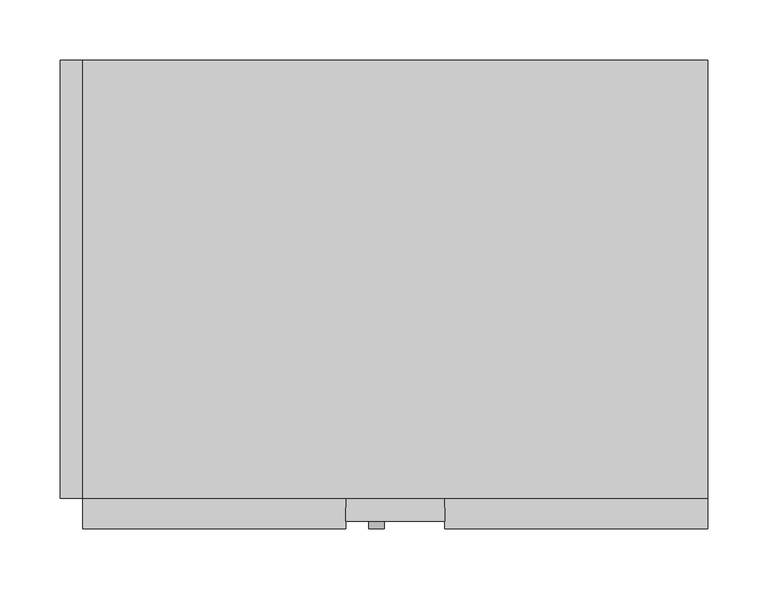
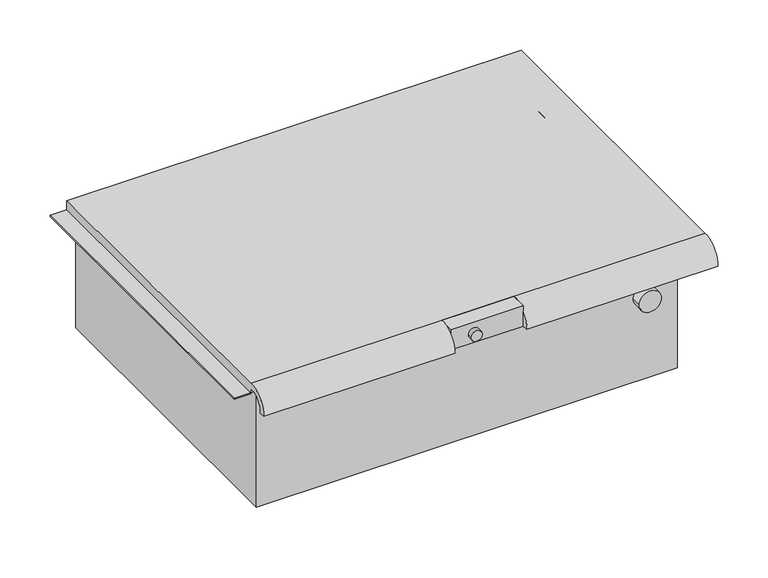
"""IFC4 building model written with IfcOpenShell, lengths in millimetres: furniture geometry."""

from ifc_helpers import new_model, si_unit, point, frame, frame_2d, origin, place, context, project, spatial, polyline, circle_curve, trimmed, segment, composite_curve, outline, extrude, faceted_brep, source, transform, mapped, element, save
from ifc_brep_helpers import plane_surface, cylinder_surface, revolved_surface, advanced_brep


def furniture_43992efd(model_context):
    return source(origin(), model_context, "Body", "SolidModel", [
        advanced_brep(
        [(289.147512, -169.8625, 1784.3500004), (289.147512, 195.2625, 1784.3500004), (289.147512, 195.2625, 1795.4625004), (289.147512, -169.8625, 1795.4625004), (289.147512, -195.297482, 1770.8510272), (289.147512, -188.9125, 1770.8510272), (289.147512, -169.8625, 1789.1125004), (-231.5525001, -169.8625, 1784.3500004), (-231.5525001, -169.8625, 1789.1125004), (-231.5525001, -188.9125, 1770.8510272), (-231.5525001, -195.297482, 1770.8510272), (-231.5525001, -169.8625, 1795.4625004), (-231.5525001, 195.2625, 1795.4625004), (-231.5525001, 195.2625, 1784.3500004), (70.072506, -169.8625, 1789.1125004), (70.072506, -169.8625, 1795.4625004), (-12.477494, -169.8625, 1795.4625004), (-12.477494, -169.8625, 1789.1125004), (70.072506, -195.297482, 1770.8510272), (70.072506, -188.9125, 1770.8510272), (-12.477494, -188.9125, 1770.8510272), (-12.477494, -195.297482, 1770.8510272)],
        [
            (0, 1),
            (1, 2),
            (2, 3),
            (3, 4, circle_curve(frame((289.147512, -172.4601678, 1772.6983276), z_axis=(1.0, 0.0, 0.0), x_axis=(0.0, 1.0, 0.0)), 22.9119061)),
            (4, 5),
            (5, 6, circle_curve(frame((289.147512, -172.3404634, 1772.6304376), z_axis=(-1.0, 0.0, 0.0), x_axis=(0.0, 1.0, 0.0)), 16.6672942)),
            (6, 0),
            (7, 8),
            (8, 9, circle_curve(frame((-231.5525001, -172.3404634, 1772.6304376), z_axis=(1.0, 0.0, 0.0), x_axis=(0.0, 1.0, 0.0)), 16.6672942)),
            (9, 10),
            (10, 11, circle_curve(frame((-231.5525001, -172.4601678, 1772.6983276), z_axis=(-1.0, 0.0, 0.0), x_axis=(0.0, 1.0, 0.0)), 22.9119061)),
            (11, 12),
            (12, 13),
            (13, 7),
            (6, 14),
            (14, 15),
            (15, 16),
            (16, 17),
            (17, 8),
            (7, 0),
            (13, 1),
            (12, 2),
            (11, 16),
            (15, 3),
            (4, 18),
            (18, 19),
            (19, 5),
            (9, 20),
            (20, 21),
            (21, 10),
            (19, 14, circle_curve(frame((70.072506, -172.3404634, 1772.6304376), z_axis=(-1.0, 0.0, 0.0), x_axis=(0.0, 1.0, 0.0)), 16.6672942)),
            (17, 20, circle_curve(frame((-12.477494, -172.3404634, 1772.6304376), z_axis=(1.0, 0.0, 0.0), x_axis=(0.0, 1.0, 0.0)), 16.6672942)),
            (15, 18, circle_curve(frame((70.072506, -172.4601678, 1772.6983276), z_axis=(1.0, 0.0, 0.0), x_axis=(0.0, 1.0, 0.0)), 22.9119061)),
            (21, 16, circle_curve(frame((-12.477494, -172.4601678, 1772.6983276), z_axis=(-1.0, 0.0, 0.0), x_axis=(0.0, 1.0, 0.0)), 22.9119061)),
        ],
        [
            plane_surface(frame((289.147512, -169.8625, 1784.3500004), z_axis=(1.0, 0.0, 0.0), x_axis=(0.0, 1.0, 0.0))),
            plane_surface(frame((-231.5525001, -169.8625, 1784.3500004), z_axis=(-1.0, 0.0, 0.0), x_axis=(0.0, -1.0, 0.0))),
            plane_surface(frame((289.147512, -169.8625, 1789.1125004), z_axis=(0.0, -1.0, 0.0), x_axis=(-1.0, 0.0, 0.0))),
            plane_surface(frame((289.147512, -169.8625, 1784.3500004), z_axis=(0.0, 0.0, -1.0), x_axis=(-1.0, 0.0, 0.0))),
            plane_surface(frame((289.147512, 195.2625, 1784.3500004), z_axis=(0.0, 1.0, 0.0), x_axis=(-1.0, 0.0, 0.0))),
            plane_surface(frame((289.147512, 195.2625, 1795.4625004), z_axis=(0.0, 0.0, 1.0), x_axis=(-1.0, 0.0, 0.0))),
            plane_surface(frame((289.147512, -195.297482, 1770.8510272), z_axis=(0.0, 0.0, -1.0), x_axis=(-1.0, 0.0, 0.0))),
            revolved_surface(polyline([(70.072506, -155.67316920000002, 1772.6304376), (289.147512, -155.67316920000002, 1772.6304376)]), (-231.5525001, -172.3404634, 1772.6304376), (-1.0, 0.0, 0.0)),
            revolved_surface(polyline([(-231.5525001, -155.67316920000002, 1772.6304376), (-12.477494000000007, -155.67316920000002, 1772.6304376)]), (-231.5525001, -172.3404634, 1772.6304376), (-1.0, 0.0, 0.0)),
            cylinder_surface(frame((-231.5525001, -172.4601678, 1772.6983276), z_axis=(1.0, 0.0, 0.0), x_axis=(0.0, 1.0, 0.0)), 22.9119061),
            plane_surface(frame((70.072506, -195.297482, 1770.8510272), z_axis=(-1.0, 0.0, 0.0), x_axis=(0.0, 1.0, 0.0))),
            plane_surface(frame((-12.477494, -195.297482, 1770.8510272), z_axis=(1.0, 0.0, 0.0), x_axis=(0.0, -1.0, 0.0))),
        ],
        [
            (0, [[1, 2, 3, 4, 5, 6, 7]]),
            (1, [[8, 9, 10, 11, 12, 13, 14]]),
            (2, [[-7, 15, 16, 17, 18, 19, -8, 20]]),
            (3, [[-1, -20, -14, 21]]),
            (4, [[-2, -21, -13, 22]]),
            (5, [[-3, -22, -12, 23, -17, 24]]),
            (6, [[-5, 25, 26, 27]]),
            (6, [[-10, 28, 29, 30]]),
            (7, [[-6, -27, 31, -15]]),
            (8, [[-9, -19, 32, -28]]),
            (9, [[-4, -24, 33, -25]]),
            (9, [[-11, -30, 34, -23]]),
            (10, [[-16, -31, -26, -33]]),
            (11, [[-18, -34, -29, -32]]),
        ],
    ),
        extrude(outline(polyline([(70.072506, -188.9125), (-12.477494, -188.9125), (-12.477494, -169.8625), (70.072506, -169.8625), (70.072506, -188.9125)])), frame((0.0, 0.0, 1770.8510272), z_axis=(0.0, 0.0, 1.0), x_axis=(1.0, 0.0, 0.0)), (0.0, 0.0, 1.0), 24.6114732),
        extrude(outline(composite_curve([segment(trimmed(circle_curve(frame_2d((1782.7625, 12.922506)), 6.35), [point((1782.7625, 19.272506))], [point((1782.7625, 6.572506))], False, "CARTESIAN"), True, "CONTINUOUS"), segment(trimmed(circle_curve(frame_2d((1782.7625, 12.922506)), 6.35), [point((1782.7625, 6.572506))], [point((1782.7625, 19.272506))], False, "CARTESIAN"), True, "CONTINUOUS")], self_intersect=False)), frame((0.0, -195.2625, 0.0), z_axis=(0.0, 1.0, 0.0), x_axis=(0.0, 0.0, 1.0)), (0.0, 0.0, 1.0), 25.4),
        faceted_brep([(-225.2025001, -169.8625, 1643.0625004), (257.3974878, -169.8625, 1643.0625004), (257.3974878, -169.8625, 1795.4625004), (-225.2025001, -169.8625, 1795.4625004), (-225.2025001, 188.9125, 1643.0625004), (-225.2025001, 188.9125, 1795.4625004), (257.3974878, 188.9125, 1795.4625004), (257.3974878, 188.9125, 1643.0625004), (-218.8095642, 181.9275, 1795.4625004), (251.0474878, 181.9275, 1795.4625004), (251.0474878, -163.5125, 1795.4625004), (-218.8095642, -163.5125, 1795.4625004), (251.0474878, 181.9275, 1646.2375004), (-218.8095642, 181.9275, 1646.2375004), (-218.8095642, -163.5125, 1646.2375004), (251.0474878, -163.5125, 1646.2375004)], [[[0, 1, 2, 3]], [[4, 5, 6, 7]], [[1, 0, 4, 7]], [[2, 1, 7, 6]], [[3, 2, 6, 5], [8, 9, 10, 11]], [[0, 3, 5, 4]], [[12, 13, 14, 15]], [[13, 12, 9, 8]], [[14, 13, 8, 11]], [[15, 14, 11, 10]], [[12, 15, 10, 9]]]),
        faceted_brep([(-250.6025001, 195.2625, 1782.7625), (-250.6025001, 195.2625, 1784.35), (-231.5525001, 195.2625, 1784.35), (-231.5525001, 195.2625, 1782.7625), (-250.6025001, -169.8625, 1782.7625), (-231.5525001, -169.8625, 1782.7625), (-231.5525001, -169.8625, 1784.35), (-250.6025001, -169.8625, 1784.35)], [[[0, 1, 2, 3]], [[4, 5, 6, 7]], [[1, 0, 4, 7]], [[2, 1, 7, 6]], [[3, 2, 6, 5]], [[0, 3, 5, 4]]]),
        faceted_brep([(276.4474999, 195.2625, 1782.7625), (263.7474999, 195.2625, 1782.7625), (263.7474999, 195.2625, 1784.35), (276.4474999, 195.2625, 1784.35), (276.4474999, -169.8625, 1782.7625), (276.4474999, -169.8625, 1784.35), (263.7474999, -169.8625, 1784.35), (263.7474999, -169.8625, 1782.7625)], [[[0, 1, 2, 3]], [[4, 5, 6, 7]], [[1, 0, 4, 7]], [[2, 1, 7, 6]], [[3, 2, 6, 5]], [[0, 3, 5, 4]]]),
        extrude(outline(composite_curve([segment(trimmed(circle_curve(frame_2d((1744.6625004, 219.2974999)), 12.7), [point((1744.6625004, 206.5974999))], [point((1744.6625004, 231.9974999))], False, "CARTESIAN"), True, "CONTINUOUS"), segment(trimmed(circle_curve(frame_2d((1744.6625004, 219.2974999)), 12.7), [point((1744.6625004, 231.9974999))], [point((1744.6625004, 206.5974999))], False, "CARTESIAN"), True, "CONTINUOUS")], self_intersect=False)), frame((0.0, -182.5625, 0.0), z_axis=(0.0, 1.0, 0.0), x_axis=(0.0, 0.0, 1.0)), (0.0, 0.0, 1.0), 12.7),
    ])


if __name__ == "__main__":
    model = new_model("IFC4")
    model_context = context("Model", 3, world=origin())
    ifc_project = project(units=[si_unit("LENGTHUNIT", "METRE", prefix="MILLI")], contexts=[model_context])
    site = spatial("IfcSite", under=ifc_project)
    building = spatial("IfcBuilding", under=site)
    placement = place(None, origin())
    furniture_shape = furniture_43992efd(model_context)
    element("IfcFurniture", 1, ObjectType="HermanMiller_Carts_CT501_Drawer : 6\"H X 15\"D X 20\"W WITH STOP Key Diff", at=placement, inside=building, context=model_context, shape_type="MappedRepresentation", body=[
        mapped(furniture_shape, transform((0.0, 0.0, 0.0), x_axis=(1.0, 0.0, 0.0), y_axis=(0.0, 1.0, 0.0), z_axis=(0.0, 0.0, 1.0))),
    ])
    save(model, "model.ifc")
